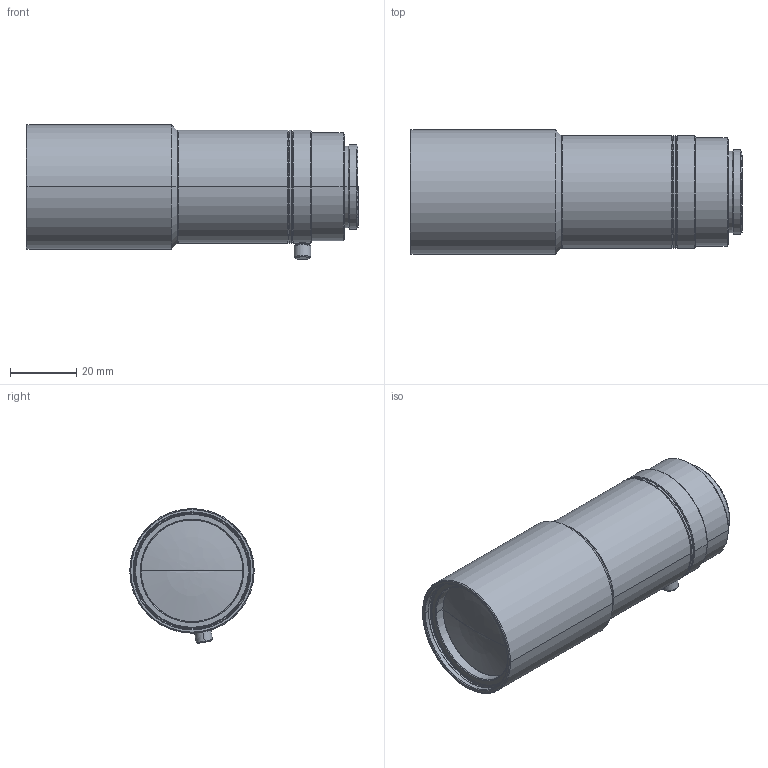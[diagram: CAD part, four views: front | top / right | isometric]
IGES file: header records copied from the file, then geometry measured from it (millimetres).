
Start section: SolidWorks IGES file using analytic representation for surfaces
Global section: file name: C:\Users\tsuji_vst\Documents\【図面】\_3D\00 VST\VS-TCT\TCT05-65\VS-TCT05-65_S.IGS; native system: SolidWorks 2016; preprocessor: SolidWorks 2016; author: tsuji_vst; date: 160830.161603; units: millimetre
Bounding box: 99.97 x 37.5 x 40.6 mm (x, y, z)
Surface area: 15530.5 mm2 (no closed solid volume)
Topology: 0 solids, 0 shells, 113 faces, 1920 edges, 1918 vertices
Faces by surface type: revolution 96, bspline 17
